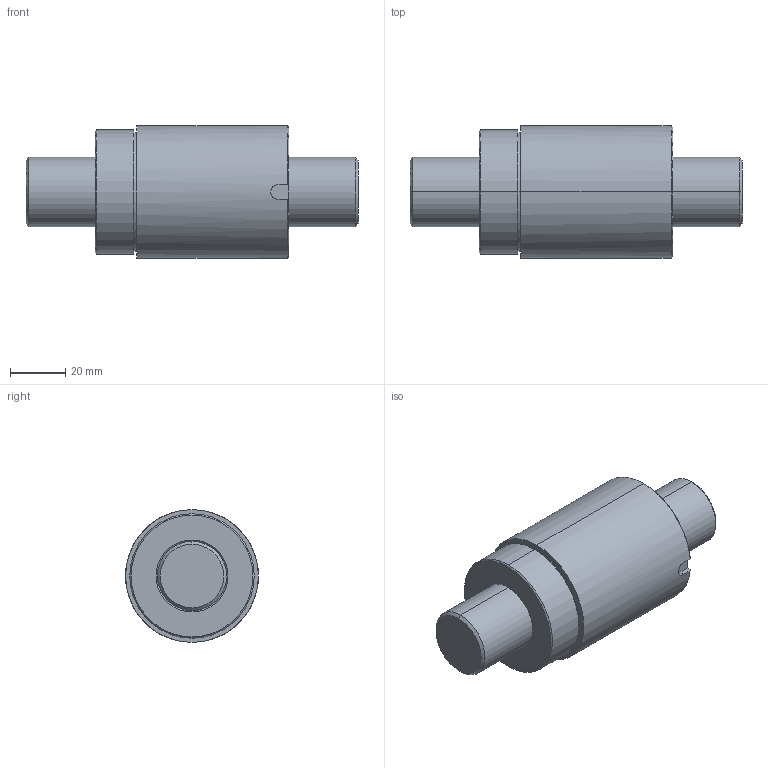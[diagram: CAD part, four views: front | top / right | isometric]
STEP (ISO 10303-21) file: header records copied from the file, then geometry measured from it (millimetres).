
FILE_DESCRIPTION(('no description'),'unknown implementation level');
FILE_NAME('R25_10T3_SE_120_120_0_023_1.stp',' ',('HIWIN GmbH'),('CADClick - KiM GmbH - www.kimweb.de'),'unknown preprocess','ACIS','unknown authorization');
FILE_SCHEMA(('automotive_design'));
Length unit declared in the file: millimetre
Products named in the file (2): R25-10T3-SE 120 120 0.023; R25-10T3-SE 120 120 0.023_1
Bounding box: 120 x 48 x 48 mm (x, y, z)
Volume: 147535.8 mm3; surface area: 29046.4 mm2
Topology: 2 solids, 2 shells, 40 faces, 90 edges, 56 vertices
Faces by surface type: cone 14, cylinder 14, plane 12
Entity records: 2275 total; most frequent: CARTESIAN_POINT 264, DIRECTION 206, STYLED_ITEM 188, PRESENTATION_STYLE_ASSIGNMENT 188, COLOUR_RGB 188, ORIENTED_EDGE 180, EDGE_CURVE 90, CURVE_STYLE 90
